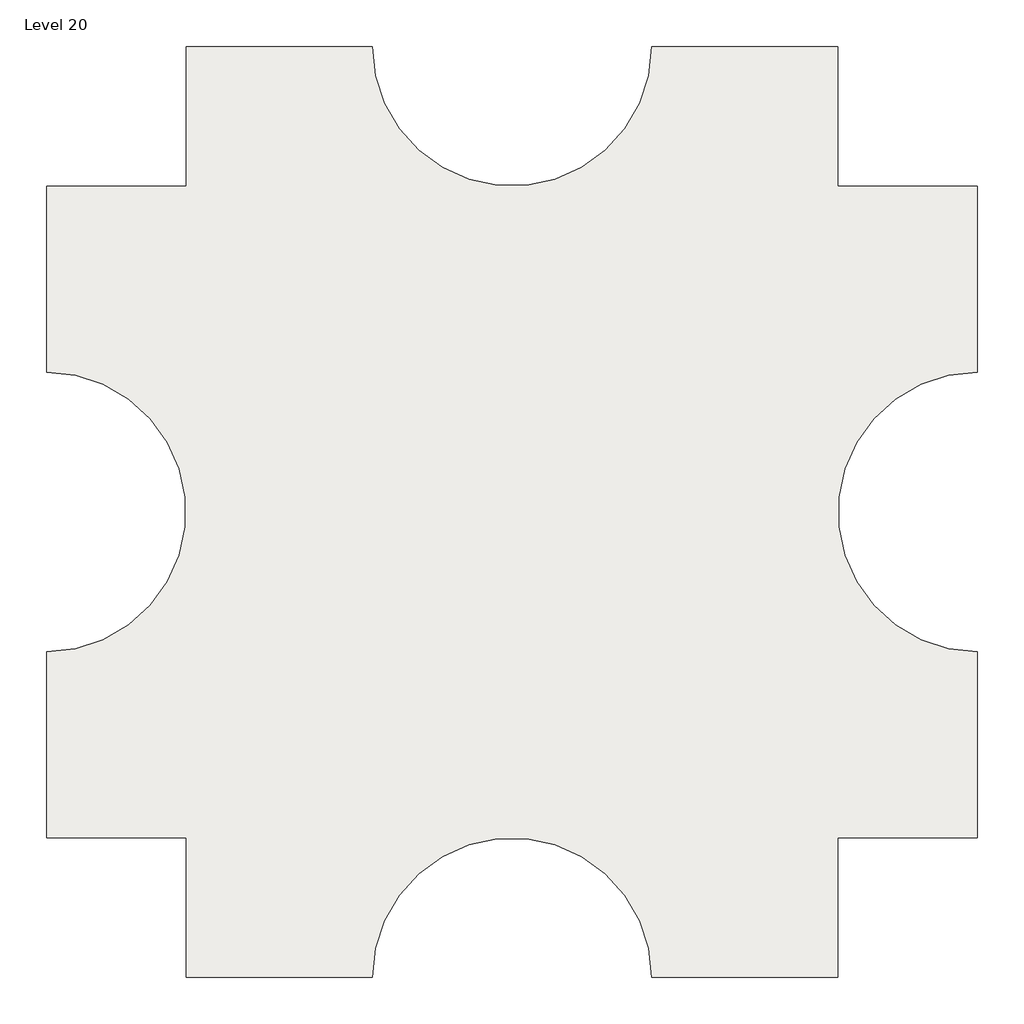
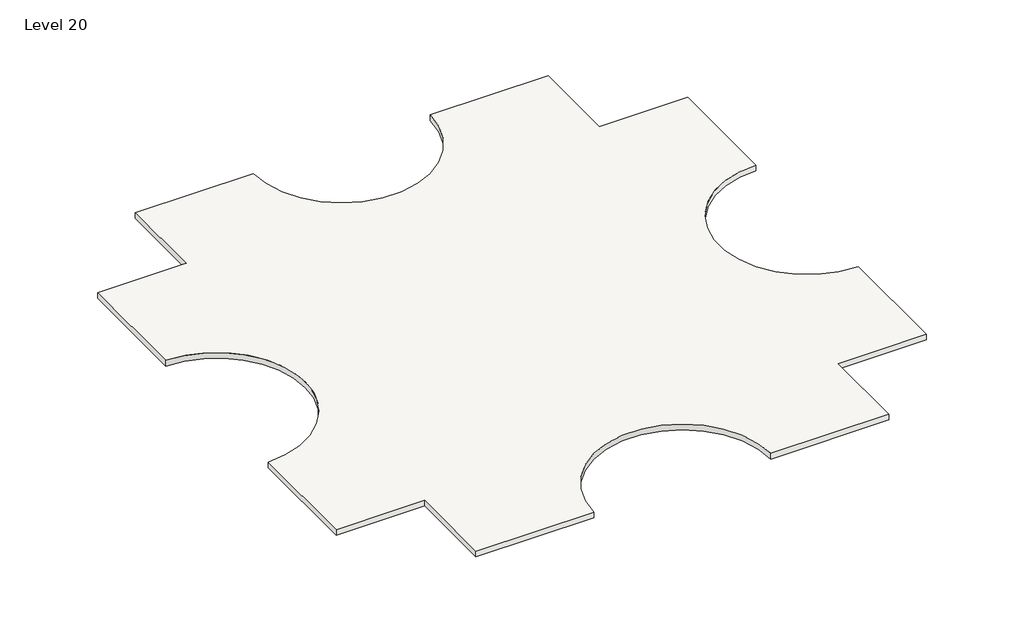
# One storey: 1 slab.
"""IFC4 building model written with IfcOpenShell, lengths in millimetres."""

import ifcopenshell
import ifcopenshell.guid

model = None  # the IFC model being written
_history = None  # IfcOwnerHistory: only IFC2X3 demands one
_inside = {}  # id of a spatial element -> (the spatial element, [elements in it])
_under = {}  # id of a project, library or spatial element -> (it, [spatial elements below it])
_declared = {}  # id of a project -> (the project, [libraries it declares])
_typed = {}  # id of a type object -> (the type object, [elements of that type])
_made_of = {}  # id of a material, layer set ... -> (it, [elements and type objects made of it])


def new_model(schema):
    """Start an empty IFC model of exactly this schema.

    Asked for "IFC4X3", IfcOpenShell would pick the latest addendum, in which some entities
    have other attributes; the version numbers below select the first issue.
    IFC2X3 requires an IfcOwnerHistory on every rooted entity: one is made here for all.
    """
    global model, _history
    if schema == "IFC4X3":
        model = ifcopenshell.file(schema_version=(4, 3, 0, 0))
    else:
        model = ifcopenshell.file(schema=schema)
    _inside.clear()
    _under.clear()
    _declared.clear()
    _typed.clear()
    _made_of.clear()
    _history = None
    if model.schema == "IFC2X3":
        org = make("IfcOrganization", Name="unknown")
        user = make(
            "IfcPersonAndOrganization",
            ThePerson=make("IfcPerson", FamilyName="unknown"),
            TheOrganization=org,
        )
        app = make(
            "IfcApplication",
            ApplicationDeveloper=org,
            Version="unknown",
            ApplicationFullName="unknown",
            ApplicationIdentifier="unknown",
        )
        _history = make(
            "IfcOwnerHistory",
            OwningUser=user,
            OwningApplication=app,
            ChangeAction="ADDED",
            CreationDate=0,
        )
    return model


def make(cls, **values):
    """One entity of the class cls with the attributes given. An attribute that is None is left unset."""
    return model.create_entity(
        cls, **{name: value for name, value in values.items() if value is not None}
    )


def rooted(cls, **values):
    """An entity with a GlobalId (a new one), such as an element, a storey or a relation."""
    return make(cls, GlobalId=ifcopenshell.guid.new(), OwnerHistory=_history, **values)


def si_unit(unit_type, name, prefix=None):
    """IfcSIUnit, for example si_unit("LENGTHUNIT", "METRE", prefix="MILLI")."""
    return make("IfcSIUnit", UnitType=unit_type, Prefix=prefix, Name=name)


def assignment(units):
    """IfcUnitAssignment: the units of a project."""
    return None if units is None else make("IfcUnitAssignment", Units=units)


def point(xyz):
    """IfcCartesianPoint."""
    return None if xyz is None else make("IfcCartesianPoint", Coordinates=xyz)


def direction(xyz):
    """IfcDirection."""
    return None if xyz is None else make("IfcDirection", DirectionRatios=xyz)


def frame(location, z_axis=None, x_axis=None):
    """IfcAxis2Placement3D, a coordinate frame: its origin and axes. An axis left out is left unset."""
    return make(
        "IfcAxis2Placement3D",
        Location=point(location),
        Axis=direction(z_axis),
        RefDirection=direction(x_axis),
    )


def frame_2d(location, x_axis=None):
    """IfcAxis2Placement2D, a coordinate frame in the plane: its origin and x axis."""
    return make(
        "IfcAxis2Placement2D", Location=point(location), RefDirection=direction(x_axis)
    )


def origin():
    """The frame at (0, 0, 0) with its axes left unset."""
    return frame((0.0, 0.0, 0.0))


def place(relative_to, where):
    """IfcLocalPlacement: puts the frame where relative to a parent placement (None: the world)."""
    return make(
        "IfcLocalPlacement", PlacementRelTo=relative_to, RelativePlacement=where
    )


def context(
    kind, dimensions, precision=None, world=None, true_north=None, identifier=None
):
    """IfcGeometricRepresentationContext, for example the 3D "Model" context."""
    return make(
        "IfcGeometricRepresentationContext",
        ContextIdentifier=identifier,
        ContextType=kind,
        CoordinateSpaceDimension=dimensions,
        Precision=precision,
        WorldCoordinateSystem=world,
        TrueNorth=true_north,
    )


def project(units=None, contexts=None):
    """IfcProject with its units and contexts."""
    return rooted(
        "IfcProject",
        Name="project",
        RepresentationContexts=contexts,
        UnitsInContext=assignment(units),
    )


def spatial(cls, under=None, at=None, **own):
    """A site, building, storey or space (cls), placed at a placement, below another one or the project."""
    s = rooted(cls, ObjectPlacement=at, **own)
    if under is not None:
        _under.setdefault(under.id(), (under, []))[1].append(s)
    return s


def polyline(points):
    """IfcPolyline through the points."""
    return make("IfcPolyline", Points=[point(p) for p in points])


def circle_curve(where, radius):
    """IfcCircle in the frame where."""
    return make("IfcCircle", Position=where, Radius=radius)


def trimmed(basis, trim1, trim2, sense, master):
    """IfcTrimmedCurve: the piece of a basis curve between two trims."""
    return make(
        "IfcTrimmedCurve",
        BasisCurve=basis,
        Trim1=trim1,
        Trim2=trim2,
        SenseAgreement=sense,
        MasterRepresentation=master,
    )


def segment(curve, same_sense, transition):
    """IfcCompositeCurveSegment."""
    return make(
        "IfcCompositeCurveSegment",
        Transition=transition,
        SameSense=same_sense,
        ParentCurve=curve,
    )


def composite_curve(segments, self_intersect=None):
    """IfcCompositeCurve: segments joined end to end."""
    return make("IfcCompositeCurve", Segments=segments, SelfIntersect=self_intersect)


def outline(outer, holes=None, kind="AREA"):
    """IfcArbitraryClosedProfileDef: a profile drawn as a closed curve; with holes, ...WithVoids."""
    if holes is None:
        return make("IfcArbitraryClosedProfileDef", ProfileType=kind, OuterCurve=outer)
    return make(
        "IfcArbitraryProfileDefWithVoids",
        ProfileType=kind,
        OuterCurve=outer,
        InnerCurves=holes,
    )


def extrude(swept, where, along, depth):
    """IfcExtrudedAreaSolid: the profile swept, set in the frame where, extruded along a direction by depth."""
    return make(
        "IfcExtrudedAreaSolid",
        SweptArea=swept,
        Position=where,
        ExtrudedDirection=direction(along),
        Depth=depth,
    )


def shape(context_of_items, identifier, shape_type, items):
    """IfcShapeRepresentation: the items that make up one representation, for example the "Body"."""
    return make(
        "IfcShapeRepresentation",
        ContextOfItems=context_of_items,
        RepresentationIdentifier=identifier,
        RepresentationType=shape_type,
        Items=items,
    )


def made_of(thing, what):
    """Note that an element or type object is made of a material, layer set ...; save() writes the relation."""
    if what is not None:
        _made_of.setdefault(what.id(), (what, []))[1].append(thing)
    return thing


def element(
    cls,
    number,
    at=None,
    inside=None,
    cuts=None,
    type_object=None,
    material=None,
    context=None,
    identifier="Body",
    shape_type=None,
    held_by="IfcProductDefinitionShape",
    body=None,
    shapes=None,
    **own,
):
    """One element of the class cls, such as IfcWall. Its Tag is "e" and its number.

    at: its placement. inside: the storey or other place that contains it. cuts: it is an
    opening in that element (IfcRelVoidsElement). A single representation is given by context,
    identifier, shape_type and body (its items); several are given by shapes. held_by: the class
    of the entity that holds the representations. save() writes the other relations.
    """
    e = rooted(cls, Tag="e%d" % number, ObjectPlacement=at, **own)
    if body is not None:
        shapes = [shape(context, identifier, shape_type, body)]
    if shapes is not None:
        e.Representation = make(held_by, Representations=shapes)
    if inside is not None:
        _inside.setdefault(inside.id(), (inside, []))[1].append(e)
    if cuts is not None:
        rooted(
            "IfcRelVoidsElement", RelatingBuildingElement=cuts, RelatedOpeningElement=e
        )
    if type_object is not None:
        _typed.setdefault(type_object.id(), (type_object, []))[1].append(e)
    return made_of(e, material)


def aggregate(whole, parts):
    """IfcRelAggregates: a whole, such as a stair, and the parts it consists of."""
    return rooted("IfcRelAggregates", RelatingObject=whole, RelatedObjects=parts)


def save(model, path):
    """Write the relations noted so far, then the file.

    IfcRelAggregates (storeys below a building ...), IfcRelContainedInSpatialStructure (elements
    in a storey), IfcRelDefinesByType, IfcRelAssociatesMaterial and IfcRelDeclares: one each for
    every whole, place, type object, material and project.
    """
    for whole, parts in _under.values():
        aggregate(whole, parts)
    for where, things in _inside.values():
        rooted(
            "IfcRelContainedInSpatialStructure",
            RelatedElements=things,
            RelatingStructure=where,
        )
    for kind, things in _typed.values():
        rooted("IfcRelDefinesByType", RelatedObjects=things, RelatingType=kind)
    for what, things in _made_of.values():
        rooted("IfcRelAssociatesMaterial", RelatedObjects=things, RelatingMaterial=what)
    for by, libraries in _declared.values():
        rooted("IfcRelDeclares", RelatingContext=by, RelatedDefinitions=libraries)
    model.write(path)


model = new_model("IFC4")

# Units and contexts
model_context = context("Model", 3, world=origin())
ifc_project = project(units=[si_unit("LENGTHUNIT", "METRE", prefix="MILLI")], contexts=[model_context])

# Site, building, storey
site = spatial("IfcSite", under=ifc_project)
building = spatial("IfcBuilding", under=site)
storey = spatial("IfcBuildingStorey", under=building, Name="Level 20", Elevation=57912.0)

# Slab
placement = place(None, origin())
element("IfcSlab", 1, ObjectType="Generic - 12\"", at=placement, inside=storey, context=model_context, shape_type="SweptSolid", body=[
    extrude(outline(composite_curve([segment(polyline([(-7150.3629456, 4479.6634547), (-7150.3629456, 9051.6634547), (-1054.3629456, 9051.6634547)]), True, "CONTINUOUS"), segment(trimmed(circle_curve(frame_2d((3517.6370544, 9051.6634547)), 4572.0), [point((-1054.3629456, 9051.6634547))], [point((8089.6370544, 9051.6634547))], True, "CARTESIAN"), True, "CONTINUOUS"), segment(polyline([(8089.6370544, 9051.6634547), (14185.6370544, 9051.6634547), (14185.6370544, 4479.6634547), (18757.6370544, 4479.6634547), (18757.6370544, -1616.3365453)]), True, "CONTINUOUS"), segment(trimmed(circle_curve(frame_2d((18757.6370544, -6188.3365453)), 4572.0), [point((18757.6370544, -1616.3365453))], [point((18757.6370544, -10760.3365453))], True, "CARTESIAN"), True, "CONTINUOUS"), segment(polyline([(18757.6370544, -10760.3365453), (18757.6370544, -16856.3365453), (14185.6370544, -16856.3365453), (14185.6370544, -21428.3365453), (8089.6370544, -21428.3365453)]), True, "CONTINUOUS"), segment(trimmed(circle_curve(frame_2d((3517.6370544, -21428.3365453)), 4572.0), [point((8089.6370544, -21428.3365453))], [point((-1054.3629456, -21428.3365453))], True, "CARTESIAN"), True, "CONTINUOUS"), segment(polyline([(-1054.3629456, -21428.3365453), (-7150.3629456, -21428.3365453), (-7150.3629456, -16856.3365453), (-11722.3629456, -16856.3365453), (-11722.3629456, -10760.3365453)]), True, "CONTINUOUS"), segment(trimmed(circle_curve(frame_2d((-11722.3629456, -6188.3365453)), 4572.0), [point((-11722.3629456, -10760.3365453))], [point((-11722.3629456, -1616.3365453))], True, "CARTESIAN"), True, "CONTINUOUS"), segment(polyline([(-11722.3629456, -1616.3365453), (-11722.3629456, 4479.6634547), (-7150.3629456, 4479.6634547)]), True, "CONTINUOUS")], self_intersect=False)), frame((0.0, 0.0, 57607.2), z_axis=(0.0, 0.0, 1.0), x_axis=(1.0, 0.0, 0.0)), (0.0, 0.0, 1.0), 304.8),
])

save(model, "model.ifc")
